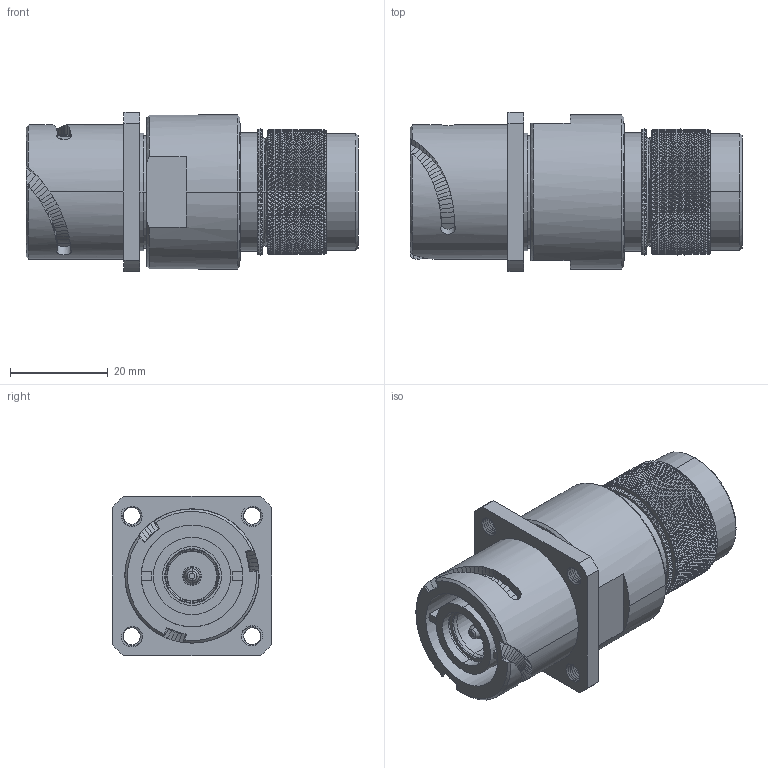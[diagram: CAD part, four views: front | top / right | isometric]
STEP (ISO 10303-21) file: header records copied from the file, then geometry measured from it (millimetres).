
FILE_DESCRIPTION((''),'2;1');
FILE_NAME('GCE3100E16M25P-B-T14_SW0001','2023-06-01T10:02:15',('paultorloting'),('NET AG system integration'),'CREO PARAMETRIC BY PTC INC, 2021404','CREO PARAMETRIC BY PTC INC, 2021404','');
FILE_SCHEMA(('AUTOMOTIVE_DESIGN { 1 0 10303 214 1 1 1 1 }'));
Products named in the file (1): GCE3100E16M25P-B-T14_SW0001
Bounding box: 67.8 x 32.5 x 32.5 mm (x, y, z)
Volume: 36790.4 mm3; surface area: 14015 mm2
Topology: 2 solids, 2 shells, 8914 faces, 15585 edges, 6707 vertices
Faces by surface type: bspline 6442, plane 2373, cylinder 51, cone 32, torus 16
Entity records: 308185 total; most frequent: CARTESIAN_POINT 179011, ORIENTED_EDGE 31170, EDGE_CURVE 15585, B_SPLINE_CURVE_WITH_KNOTS 10757, DIRECTION 9972, EDGE_LOOP 8956, FACE_OUTER_BOUND 8914, ADVANCED_FACE 8914
